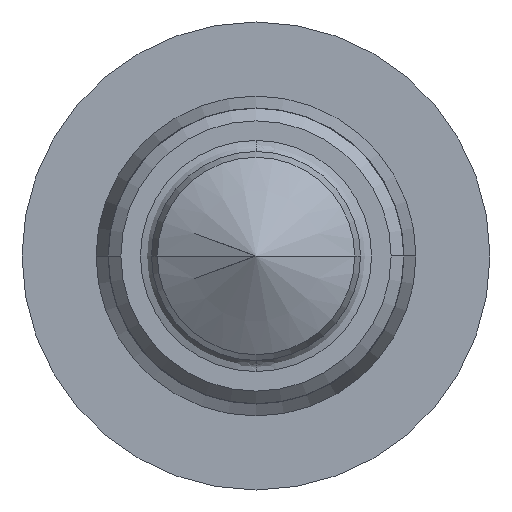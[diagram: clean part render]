
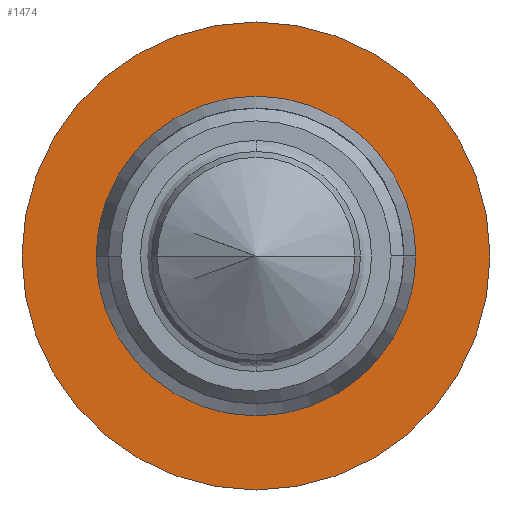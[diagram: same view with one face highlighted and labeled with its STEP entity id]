
A CAD part, front view. The second image highlights one B-rep face of the part: STEP entity #1474.
In plain terms, the highlighted planar face has unit normal (0, -1, 0).
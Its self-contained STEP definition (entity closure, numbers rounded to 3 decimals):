
#204=CARTESIAN_POINT('',(-0.406,-0.031,0.0));
#205=VERTEX_POINT('',#204);
#213=CARTESIAN_POINT('',(0.406,-0.031,0.));
#214=VERTEX_POINT('',#213);
#221=CARTESIAN_POINT('',(0.,-0.031,0.0));
#222=DIRECTION('',(0.0,-1.0,0.0));
#223=DIRECTION('',(-1.0,0.0,0.0));
#224=AXIS2_PLACEMENT_3D('',#221,#222,#223);
#225=CIRCLE('',#224,0.406);
#226=EDGE_CURVE('',#214,#205,#225,.T.);
#236=CARTESIAN_POINT('',(-0.594,-0.031,0.0));
#237=VERTEX_POINT('',#236);
#246=CARTESIAN_POINT('',(0.594,-0.031,0.));
#247=VERTEX_POINT('',#246);
#248=CARTESIAN_POINT('',(0.,-0.031,0.0));
#249=DIRECTION('',(0.0,-1.0,0.0));
#250=DIRECTION('',(-1.0,0.0,0.0));
#251=AXIS2_PLACEMENT_3D('',#248,#249,#250);
#252=CIRCLE('',#251,0.594);
#253=EDGE_CURVE('',#247,#237,#252,.T.);
#1445=CARTESIAN_POINT('',(0.,-0.031,0.0));
#1446=DIRECTION('',(0.0,-1.0,0.0));
#1447=DIRECTION('',(-1.0,0.0,0.0));
#1448=AXIS2_PLACEMENT_3D('',#1445,#1446,#1447);
#1449=CIRCLE('',#1448,0.594);
#1450=EDGE_CURVE('',#237,#247,#1449,.T.);
#1455=CARTESIAN_POINT('',(-0.5,-0.031,0.0));
#1456=DIRECTION('',(0.0,-1.0,0.0));
#1457=DIRECTION('',(0.0,0.0,-1.0));
#1458=AXIS2_PLACEMENT_3D('',#1455,#1456,#1457);
#1459=PLANE('',#1458);
#1460=ORIENTED_EDGE('',*,*,#1450,.T.);
#1461=ORIENTED_EDGE('',*,*,#253,.T.);
#1462=EDGE_LOOP('',(#1460,#1461));
#1463=FACE_OUTER_BOUND('',#1462,.T.);
#1464=CARTESIAN_POINT('',(0.,-0.031,0.0));
#1465=DIRECTION('',(0.0,-1.0,0.0));
#1466=DIRECTION('',(-1.0,0.0,0.0));
#1467=AXIS2_PLACEMENT_3D('',#1464,#1465,#1466);
#1468=CIRCLE('',#1467,0.406);
#1469=EDGE_CURVE('',#205,#214,#1468,.T.);
#1470=ORIENTED_EDGE('',*,*,#1469,.F.);
#1471=ORIENTED_EDGE('',*,*,#226,.F.);
#1472=EDGE_LOOP('',(#1470,#1471));
#1473=FACE_BOUND('',#1472,.T.);
#1474=ADVANCED_FACE('',(#1463,#1473),#1459,.T.);
